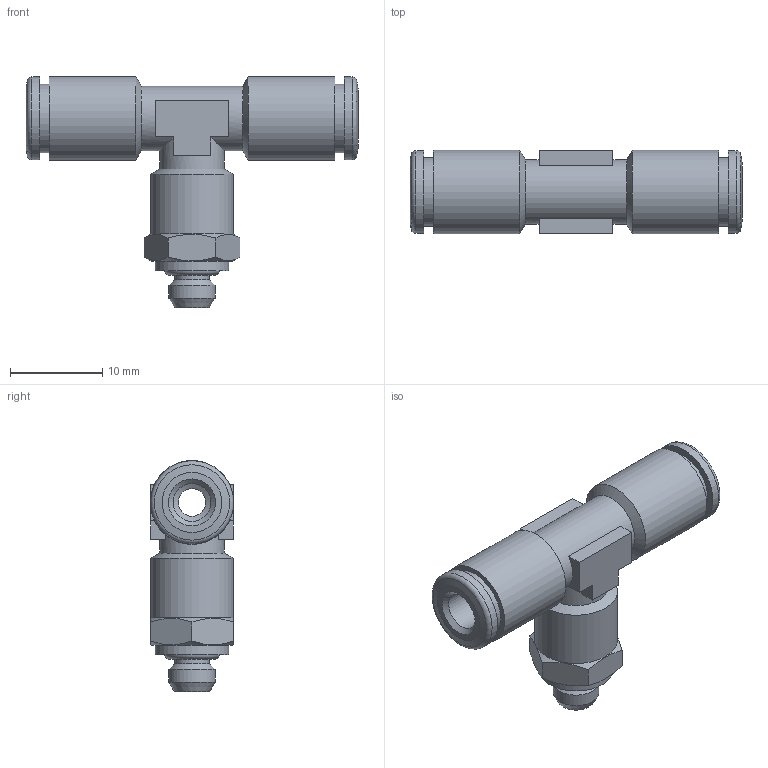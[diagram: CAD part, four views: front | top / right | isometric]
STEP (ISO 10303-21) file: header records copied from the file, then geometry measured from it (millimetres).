
FILE_DESCRIPTION(/* description */ (''),/* implementation_level */ '2;1');
FILE_NAME(/* name */ '202000-ES-I_STX020_4_M5_30.06.16',/* time_stamp */ '2016-06-29T10:24:04+02:00',/* author */ (''),/* organization */ (''),/* preprocessor_version */ 'ST-DEVELOPER v16.5',/* originating_system */ 'HiCAD 2016 2101.0 Build 254',/* authorisation */ '');
FILE_SCHEMA (('AUTOMOTIVE_DESIGN { 1 0 10303 214 1 1 1 1 }'));
Length unit declared in the file: millimetre
Products named in the file (6): Root; OR 4X1.2; 214601-ES-N2; R202000-ES-i; DR4-1_NEU
Assembly tree (5 placements, depth 2):
  Root
    OR 4X1.2
    214601-ES-N2
    R202000-ES-i
    DR4-1_NEU
    DR4-1_NEU
Bounding box: 36 x 9.1 x 25.05 mm (x, y, z)
Volume: 1982.6 mm3; surface area: 3413.4 mm2
Topology: 5 solids, 5 shells, 109 faces, 237 edges, 146 vertices
Faces by surface type: plane 43, cone 31, cylinder 30, torus 5
Full cylindrical faces by diameter (mm): 2.6 x1, 3 x1, 3.8 x1, 4 x1, 4.1 x4, 5 x1, 6 x1, 6.4 x2, 6.8 x2, 7 x2, 7.3 x2, 7.4 x2, 7.6 x2, 7.85 x1, 7.9 x1, 8 x1, 9 x3, 9.1 x2
Entity records: 4924 total; most frequent: CARTESIAN_POINT 1156, DIRECTION 490, PRESENTATION_STYLE_ASSIGNMENT 315, COLOUR_RGB 312, DRAUGHTING_PRE_DEFINED_CURVE_FONT 310, CURVE_STYLE 310, OVER_RIDING_STYLED_ITEM 310, ORIENTED_EDGE 310
